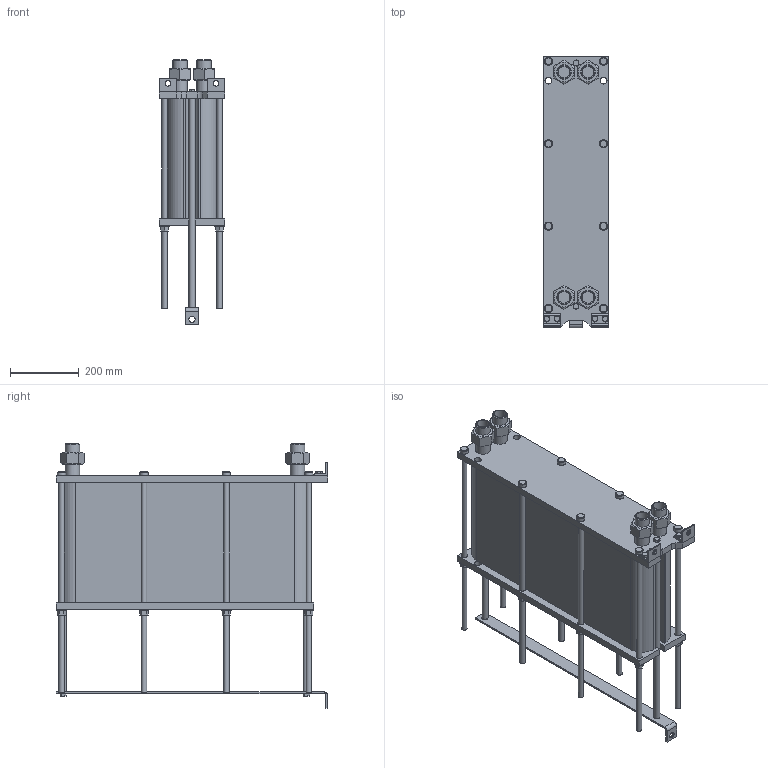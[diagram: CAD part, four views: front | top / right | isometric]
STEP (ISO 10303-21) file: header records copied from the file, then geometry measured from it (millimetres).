
FILE_DESCRIPTION(/* description */ (''),/* implementation_level */ '2;1');
FILE_NAME(/* name */ 'C:\Users\zhuro\Desktop\ENCO\TO\ЭН-008\ЭН-0,5-008-113-1.stp',/* time_stamp */ '2022-06-06T10:56:08+03:00',/* author */ ('zhuro'),/* organization */ (''),/* preprocessor_version */ 'ST-DEVELOPER v18.1',/* originating_system */ 'Autodesk Inventor 2022',/* authorisation */ '');
FILE_SCHEMA (('AUTOMOTIVE_DESIGN { 1 0 10303 214 3 1 1 }'));
Length unit declared in the file: millimetre
Products named in the file (1): ЭН-0,5-008-113-1
Bounding box: 190 x 790 x 771.4 mm (x, y, z)
Volume: 42733946.7 mm3; surface area: 2131489.6 mm2
Topology: 40 solids, 40 shells, 428 faces, 924 edges, 606 vertices
Faces by surface type: plane 273, cylinder 109, cone 40, torus 6
Full cylindrical faces by diameter (mm): 12 x6, 14 x2, 16 x20, 17 x8, 18 x19, 20 x5, 24 x8, 28 x8, 34.3 x8, 42.3 x8
Entity records: 15843 total; most frequent: CARTESIAN_POINT 5991, DIRECTION 1984, ORIENTED_EDGE 1848, EDGE_CURVE 924, AXIS2_PLACEMENT_3D 715, VERTEX_POINT 606, LINE 554, VECTOR 554
